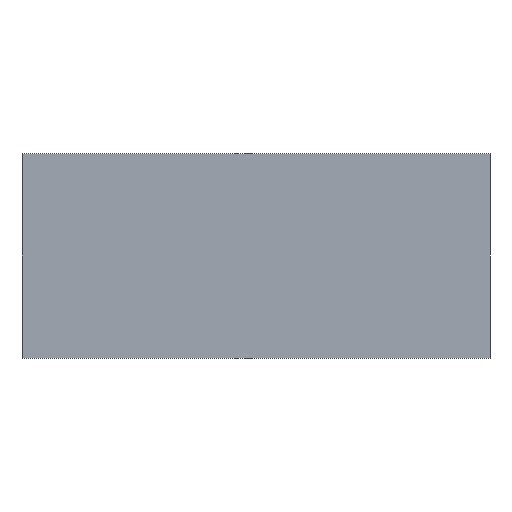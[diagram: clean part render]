
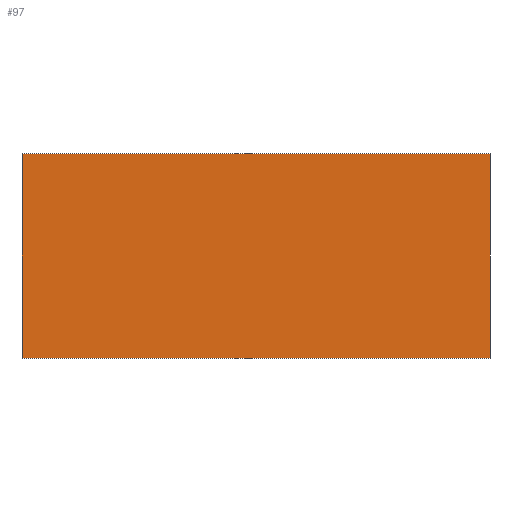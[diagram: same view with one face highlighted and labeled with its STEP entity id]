
A CAD part, front view. The second image highlights one B-rep face of the part: STEP entity #97.
In plain terms, the highlighted planar face has unit normal (0, -1, 0).
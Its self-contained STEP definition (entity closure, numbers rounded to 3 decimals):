
#21 = EDGE_CURVE('',#22,#24,#26,.T.);
#22 = VERTEX_POINT('',#23);
#23 = CARTESIAN_POINT('',(-825.,-140.,0.));
#24 = VERTEX_POINT('',#25);
#25 = CARTESIAN_POINT('',(-825.,-140.,720.));
#26 = LINE('',#27,#28);
#27 = CARTESIAN_POINT('',(-825.,-140.,0.));
#28 = VECTOR('',#29,1.);
#29 = DIRECTION('',(0.,0.,1.));
#61 = EDGE_CURVE('',#62,#64,#66,.T.);
#62 = VERTEX_POINT('',#63);
#63 = CARTESIAN_POINT('',(825.,-140.,0.));
#64 = VERTEX_POINT('',#65);
#65 = CARTESIAN_POINT('',(825.,-140.,720.));
#66 = LINE('',#67,#68);
#67 = CARTESIAN_POINT('',(825.,-140.,0.));
#68 = VECTOR('',#69,1.);
#69 = DIRECTION('',(0.,0.,1.));
#97 = ADVANCED_FACE('',(#98),#114,.F.);
#98 = FACE_BOUND('',#99,.F.);
#99 = EDGE_LOOP('',(#100,#106,#107,#113));
#100 = ORIENTED_EDGE('',*,*,#101,.F.);
#101 = EDGE_CURVE('',#22,#62,#102,.T.);
#102 = LINE('',#103,#104);
#103 = CARTESIAN_POINT('',(-825.,-140.,0.));
#104 = VECTOR('',#105,1.);
#105 = DIRECTION('',(1.,0.,0.));
#106 = ORIENTED_EDGE('',*,*,#21,.T.);
#107 = ORIENTED_EDGE('',*,*,#108,.T.);
#108 = EDGE_CURVE('',#24,#64,#109,.T.);
#109 = LINE('',#110,#111);
#110 = CARTESIAN_POINT('',(-825.,-140.,720.));
#111 = VECTOR('',#112,1.);
#112 = DIRECTION('',(1.,0.,0.));
#113 = ORIENTED_EDGE('',*,*,#61,.F.);
#114 = PLANE('',#115);
#115 = AXIS2_PLACEMENT_3D('',#116,#117,#118);
#116 = CARTESIAN_POINT('',(-825.,-140.,0.));
#117 = DIRECTION('',(0.,1.,0.));
#118 = DIRECTION('',(0.,0.,1.));
